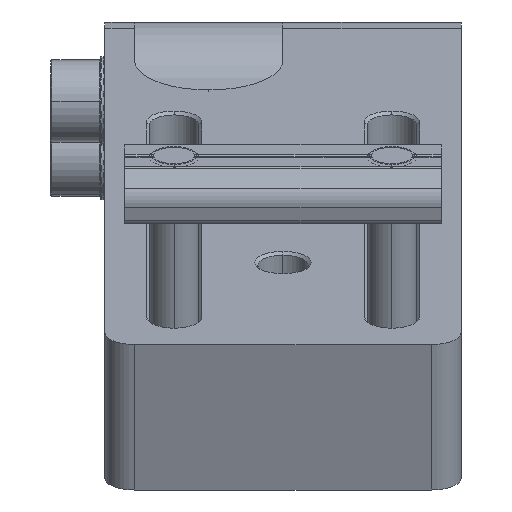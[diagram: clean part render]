
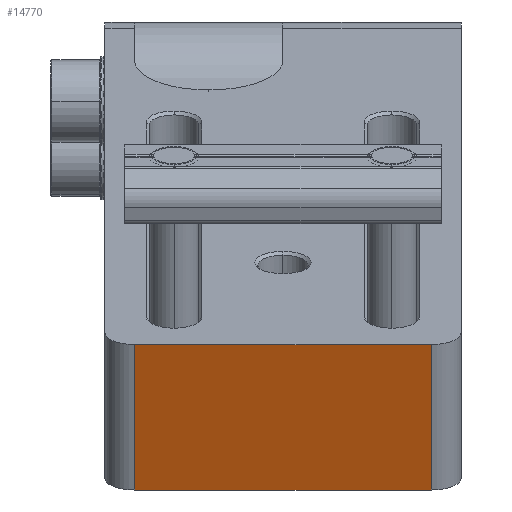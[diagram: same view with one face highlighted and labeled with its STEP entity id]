
A CAD part, left-side view. The second image highlights one B-rep face of the part: STEP entity #14770.
In plain terms, the highlighted planar face has unit normal (-0.919, 0, -0.395).
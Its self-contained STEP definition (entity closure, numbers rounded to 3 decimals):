
#408 = ORIENTED_EDGE ( 'NONE', *, *, #28853, .T. ) ;
#2255 = VECTOR ( 'NONE', #37506, 1000. ) ;
#2818 = VECTOR ( 'NONE', #42480, 1000. ) ;
#4728 = VERTEX_POINT ( 'NONE', #38109 ) ;
#6320 = CARTESIAN_POINT ( 'NONE',  ( -222.396, -1.566, 30.412 ) ) ;
#6602 = VERTEX_POINT ( 'NONE', #19368 ) ;
#7233 = CARTESIAN_POINT ( 'NONE',  ( -219.24, -1.566, 23.061 ) ) ;
#8040 = CARTESIAN_POINT ( 'NONE',  ( -216.084, 13.434, 15.71 ) ) ;
#9128 = CARTESIAN_POINT ( 'NONE',  ( -222.396, 13.434, 30.412 ) ) ;
#9683 = CARTESIAN_POINT ( 'NONE',  ( -216.084, -1.566, 15.71 ) ) ;
#11054 = PLANE ( 'NONE',  #41888 ) ;
#11121 = DIRECTION ( 'NONE',  ( 0., -1., 0. ) ) ;
#11277 = ORIENTED_EDGE ( 'NONE', *, *, #41549, .F. ) ;
#11703 = LINE ( 'NONE', #9128, #2818 ) ;
#13218 = ORIENTED_EDGE ( 'NONE', *, *, #15627, .T. ) ;
#13403 = ORIENTED_EDGE ( 'NONE', *, *, #36731, .F. ) ;
#14770 = ADVANCED_FACE ( 'NONE', ( #43178 ), #11054, .F. ) ;
#15138 = EDGE_LOOP ( 'NONE', ( #13403, #11277, #408, #13218 ) ) ;
#15627 = EDGE_CURVE ( 'NONE', #19030, #41089, #17479, .T. ) ;
#17389 = DIRECTION ( 'NONE',  ( 0.919, 0., 0.395 ) ) ;
#17394 = VECTOR ( 'NONE', #11121, 1000. ) ;
#17479 = LINE ( 'NONE', #7233, #2255 ) ;
#19030 = VERTEX_POINT ( 'NONE', #9683 ) ;
#19368 = CARTESIAN_POINT ( 'NONE',  ( -216.084, 28.434, 15.71 ) ) ;
#23865 = DIRECTION ( 'NONE',  ( 0.395, 0., -0.919 ) ) ;
#24692 = DIRECTION ( 'NONE',  ( -0.395, 0., 0.919 ) ) ;
#28434 = CARTESIAN_POINT ( 'NONE',  ( -219.24, 28.434, 23.061 ) ) ;
#28853 = EDGE_CURVE ( 'NONE', #6602, #19030, #37748, .T. ) ;
#30949 = CARTESIAN_POINT ( 'NONE',  ( -222.396, -1.566, 30.412 ) ) ;
#36731 = EDGE_CURVE ( 'NONE', #4728, #41089, #11703, .T. ) ;
#37506 = DIRECTION ( 'NONE',  ( -0.395, 0., 0.919 ) ) ;
#37560 = LINE ( 'NONE', #28434, #42779 ) ;
#37748 = LINE ( 'NONE', #8040, #17394 ) ;
#38109 = CARTESIAN_POINT ( 'NONE',  ( -222.396, 28.434, 30.412 ) ) ;
#41089 = VERTEX_POINT ( 'NONE', #6320 ) ;
#41549 = EDGE_CURVE ( 'NONE', #6602, #4728, #37560, .T. ) ;
#41888 = AXIS2_PLACEMENT_3D ( 'NONE', #30949, #17389, #23865 ) ;
#42480 = DIRECTION ( 'NONE',  ( 0., -1., 0. ) ) ;
#42779 = VECTOR ( 'NONE', #24692, 1000. ) ;
#43178 = FACE_OUTER_BOUND ( 'NONE', #15138, .T. ) ;
